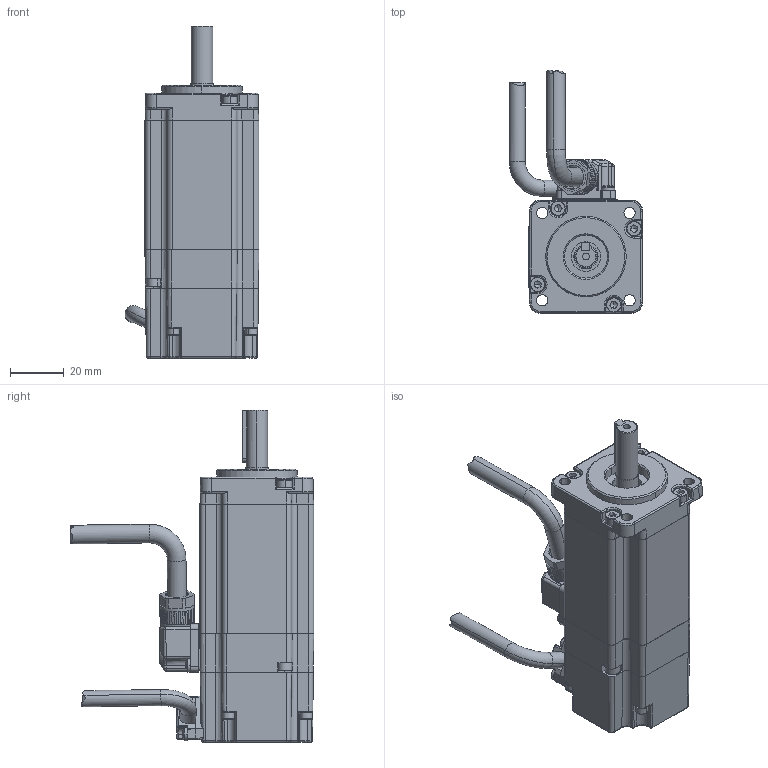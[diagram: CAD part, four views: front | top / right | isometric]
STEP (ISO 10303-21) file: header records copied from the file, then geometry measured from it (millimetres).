
FILE_DESCRIPTION (( 'STEP AP203' ), '1' );
FILE_NAME ('Assem1.STEP', '2010-08-24T03:19:14', ( '' ), ( '' ), 'SwSTEP 2.0', 'SolidWorks 2011', '' );
FILE_SCHEMA (( 'CONFIG_CONTROL_DESIGN' ));
Products named in the file (1): Assem1
Bounding box: 49.85 x 90.71 x 123.6 mm (x, y, z)
Volume: 66389.1 mm3; surface area: 56956.2 mm2
Topology: 27 solids, 27 shells, 1674 faces, 4162 edges, 2553 vertices
Faces by surface type: plane 693, cylinder 582, bspline 202, cone 193, torus 4
Entity records: 64056 total; most frequent: CARTESIAN_POINT 25858, ORIENTED_EDGE 8196, DIRECTION 7708, EDGE_CURVE 4098, AXIS2_PLACEMENT_3D 2870, VERTEX_POINT 2553, LINE 1968, VECTOR 1968
